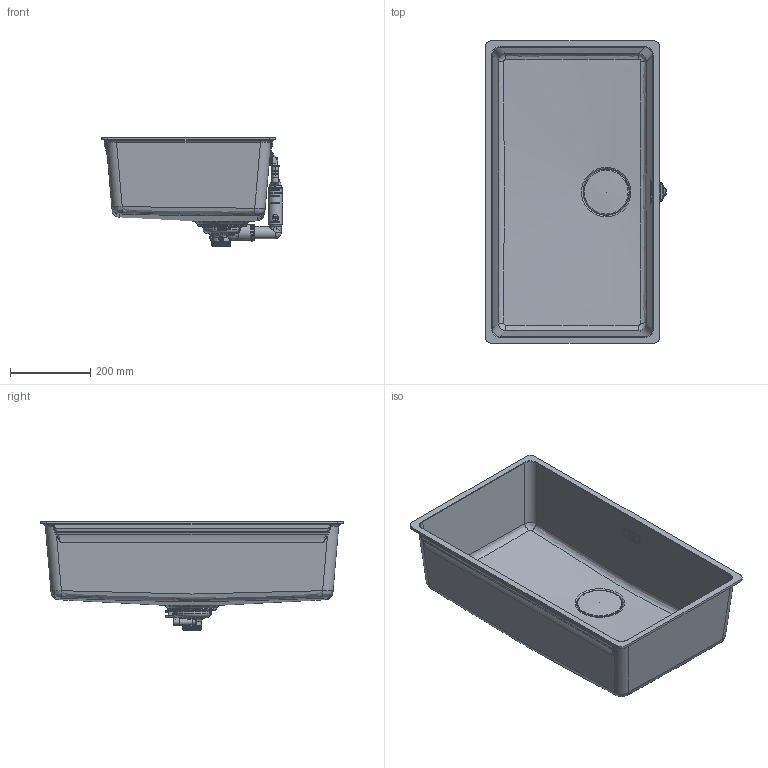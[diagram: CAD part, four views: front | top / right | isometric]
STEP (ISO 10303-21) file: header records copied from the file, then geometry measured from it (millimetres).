
FILE_DESCRIPTION(/* description */ ('UBG 610-78'),/* implementation_level */ '2;1');
FILE_NAME(/* name */ 'C:\Users\PS950\OneDrive - Franke Group\Maris Bowls MRG\Flushmount\MRG 210-72\3D Data\MRG 210-72.stp',/* time_stamp */ '2021-09-29T14:15:13+02:00',/* author */ ('PS950'),/* organization */ (''),/* preprocessor_version */ 'ST-DEVELOPER v18.1',/* originating_system */ 'Autodesk Inventor 2021',/* authorisation */ '');
FILE_SCHEMA (('AUTOMOTIVE_DESIGN { 1 0 10303 214 3 1 1 }'));
Products named in the file (22): 0056-219212; Standard; NEW MARIS_V01; 0056-218666; 0056-202897; 0056-214469; 0056-203246; 0056-213999; 0056-127368; 0056-215850; 0056-215855; 0056-185732; 0056-214454; 0056-214010; 0056-135514; 0056-137629; 0056-142823; 0056-165491; 0056-161093; 0056-216002; 0056-216000; 0056-207145
Assembly tree (24 placements, depth 4):
  0056-219212
    Standard
      NEW MARIS_V01
    0056-218666
      0056-202897
      0056-214469
      0056-203246
        0056-213999
        0056-127368
        0056-215850
        0056-215855
        0056-185732
        0056-214454
        0056-214010
    0056-135514
    0056-137629
    0056-142823
    0056-165491
    0056-161093
    0056-216002
      0056-216000
      0056-207145  x4
Bounding box: 450.32 x 753 x 271.19 mm (x, y, z)
Volume: 5240809.4 mm3; surface area: 1586394.7 mm2
Topology: 20 solids, 20 shells, 5071 faces, 13495 edges, 8648 vertices
Faces by surface type: plane 2658, bspline 1136, cylinder 655, torus 341, cone 218, sphere 63
Full cylindrical faces by diameter (mm): 3.242 x1, 4 x1, 4.5 x1, 4.7 x1, 4.85 x1, 5.2 x1, 5.25 x1, 5.85 x2, 6 x4, 6.01 x1, 6.2 x1, 8 x2, 8.25 x1, 11.003 x8, 12 x1, 12.5 x9, 12.6 x1, 13.743 x1, 14.3 x1, 16.941 x1, 22 x1, 26 x1, 27 x1, 28 x2, 30 x7, 33 x2, 33.75 x1, 34 x2, 36.5 x1, 39 x2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
Entity records: 181974 total; most frequent: CARTESIAN_POINT 66884, ORIENTED_EDGE 25792, DIRECTION 20369, EDGE_CURVE 12896, VERTEX_POINT 8336, LINE 7567, VECTOR 7567, AXIS2_PLACEMENT_3D 6401
